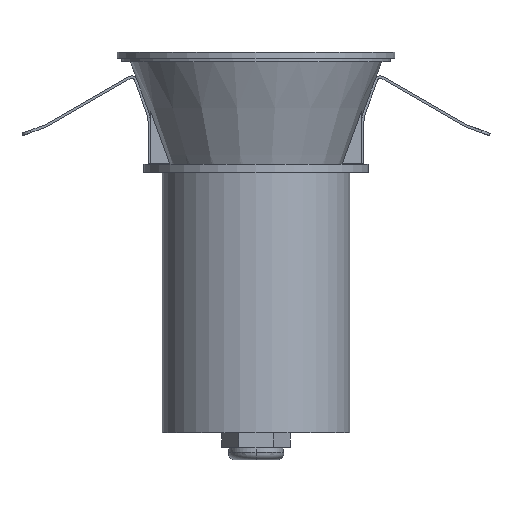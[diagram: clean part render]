
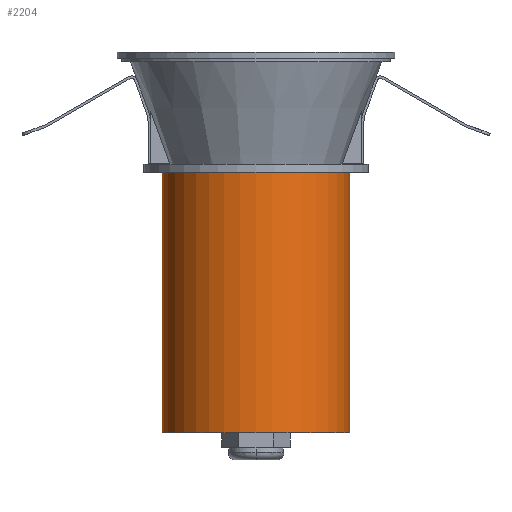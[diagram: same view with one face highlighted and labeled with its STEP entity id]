
A CAD part, front view. The second image highlights one B-rep face of the part: STEP entity #2204.
In plain terms, the highlighted cylindrical face has radius 30.008 mm (diameter 60.016 mm), a partial arc.
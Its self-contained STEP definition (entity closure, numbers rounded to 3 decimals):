
#220=FACE_OUTER_BOUND('',#374,.T.);
#374=EDGE_LOOP('',(#1606,#1607,#1608,#1609));
#518=CIRCLE('',#2391,30.008);
#520=CIRCLE('',#2395,30.008);
#635=LINE('',#3466,#819);
#636=LINE('',#3469,#820);
#819=VECTOR('',#2756,304.8);
#820=VECTOR('',#2759,304.8);
#1000=VERTEX_POINT('',#3457);
#1001=VERTEX_POINT('',#3459);
#1002=VERTEX_POINT('',#3465);
#1003=VERTEX_POINT('',#3467);
#1218=EDGE_CURVE('',#1001,#1000,#518,.T.);
#1221=EDGE_CURVE('',#1002,#1000,#635,.T.);
#1222=EDGE_CURVE('',#1003,#1002,#520,.T.);
#1223=EDGE_CURVE('',#1001,#1003,#636,.T.);
#1606=ORIENTED_EDGE('',*,*,#1221,.F.);
#1607=ORIENTED_EDGE('',*,*,#1222,.F.);
#1608=ORIENTED_EDGE('',*,*,#1223,.F.);
#1609=ORIENTED_EDGE('',*,*,#1218,.T.);
#2140=CYLINDRICAL_SURFACE('',#2394,30.008);
#2204=ADVANCED_FACE('',(#220),#2140,.T.);
#2391=AXIS2_PLACEMENT_3D('',#3460,#2747,#2748);
#2394=AXIS2_PLACEMENT_3D('',#3464,#2754,#2755);
#2395=AXIS2_PLACEMENT_3D('',#3468,#2757,#2758);
#2747=DIRECTION('center_axis',(0.,0.,1.));
#2748=DIRECTION('ref_axis',(-1.,0.,0.));
#2754=DIRECTION('center_axis',(0.,0.,1.));
#2755=DIRECTION('ref_axis',(-1.,0.,0.));
#2756=DIRECTION('',(0.,0.,-1.));
#2757=DIRECTION('center_axis',(0.,0.,1.));
#2758=DIRECTION('ref_axis',(-1.,0.,0.));
#2759=DIRECTION('',(0.,0.,1.));
#3457=CARTESIAN_POINT('',(-30.008,0.,35.5));
#3459=CARTESIAN_POINT('',(30.008,0.,35.5));
#3460=CARTESIAN_POINT('Origin',(0.,0.,35.5));
#3464=CARTESIAN_POINT('Origin',(0.,0.,1702.626));
#3465=CARTESIAN_POINT('',(-30.008,0.,119.));
#3466=CARTESIAN_POINT('',(-30.008,0.,119.));
#3467=CARTESIAN_POINT('',(30.008,0.,119.));
#3468=CARTESIAN_POINT('Origin',(0.,0.,119.));
#3469=CARTESIAN_POINT('',(30.008,0.,35.5));
